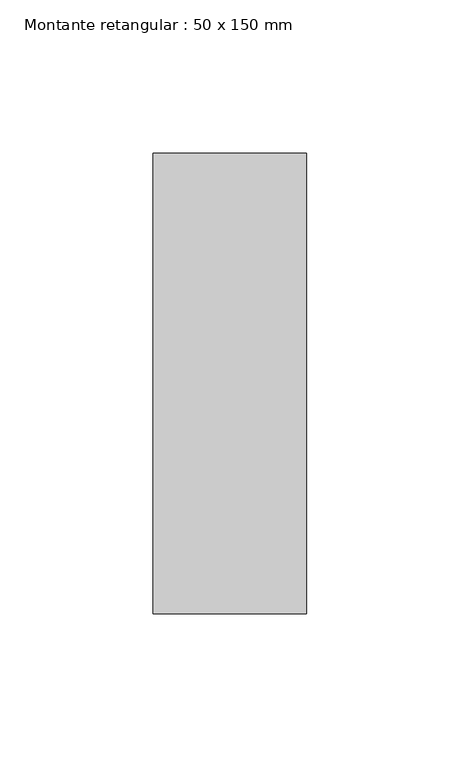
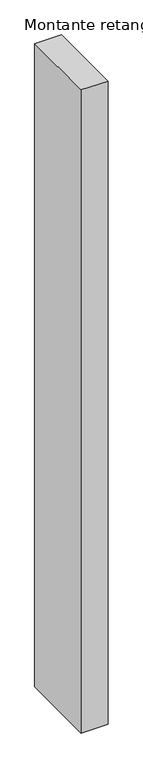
"""IFC4 building model written with IfcOpenShell, lengths in millimetres: member geometry, Montante retangular : 50 x 150 mm."""

from ifc_helpers import new_model, si_unit, frame, origin, place, context, project, spatial, polyline, outline, extrude, source, transform, mapped, element, save


def montante_retangular_50_x_150_mm_1ca2bba2(model_context):
    return source(origin(), model_context, "Body", "SweptSolid", [
        extrude(outline(polyline([(25.0, 75.0), (25.0, -75.0), (-25.0, -75.0), (-25.0, 75.0), (25.0, 75.0)])), frame((0.0, 0.0, -1269.1666667), z_axis=(0.0, 0.0, 1.0), x_axis=(1.0, 0.0, 0.0)), (0.0, 0.0, 1.0), 1269.1666667),
    ])


if __name__ == "__main__":
    model = new_model("IFC4")
    model_context = context("Model", 3, world=origin())
    ifc_project = project(units=[si_unit("LENGTHUNIT", "METRE", prefix="MILLI")], contexts=[model_context])
    site = spatial("IfcSite", under=ifc_project)
    building = spatial("IfcBuilding", under=site)
    placement = place(None, origin())
    montante_retangular_50_x_150_mm_shape = montante_retangular_50_x_150_mm_1ca2bba2(model_context)
    element("IfcMember", 1, ObjectType="Montante retangular : 50 x 150 mm", at=placement, inside=building, context=model_context, shape_type="MappedRepresentation", body=[
        mapped(montante_retangular_50_x_150_mm_shape, transform((0.0, 0.0, 0.0), x_axis=(1.0, 0.0, 0.0), y_axis=(0.0, 1.0, 0.0), z_axis=(0.0, 0.0, 1.0))),
    ])
    save(model, "model.ifc")
